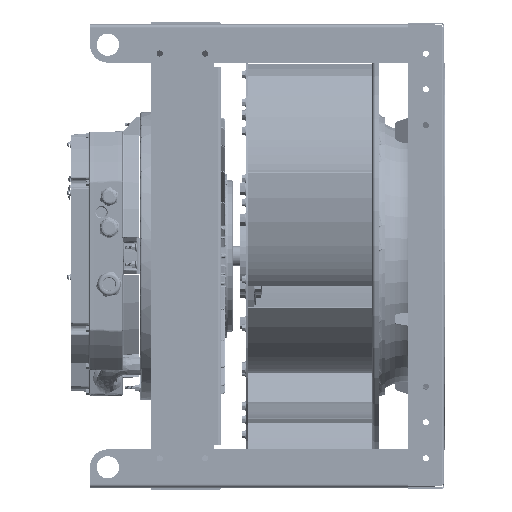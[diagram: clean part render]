
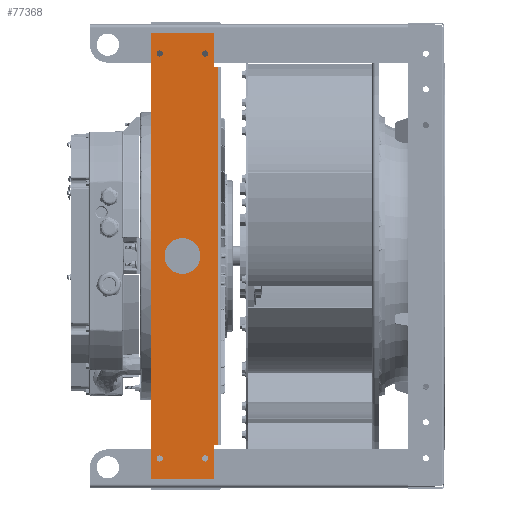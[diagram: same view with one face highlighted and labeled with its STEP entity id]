
A CAD part, front view. The second image highlights one B-rep face of the part: STEP entity #77368.
In plain terms, the highlighted planar face has unit normal (0, -1, 0) as drawn and (0, 0, 1) by its records, which use the part's own axes.
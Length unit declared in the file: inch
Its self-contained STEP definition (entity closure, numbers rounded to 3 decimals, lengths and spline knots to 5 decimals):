
#14715 = DIRECTION ( 'NONE',  ( 0., -1., 0. ) ) ;
#15464 = VERTEX_POINT ( 'NONE', #294374 ) ;
#17459 = CARTESIAN_POINT ( 'NONE',  ( 1., 0., 0.135 ) ) ;
#23321 = CARTESIAN_POINT ( 'NONE',  ( -11.305, 1.27, 0.135 ) ) ;
#29718 = ORIENTED_EDGE ( 'NONE', *, *, #146999, .T. ) ;
#33026 = AXIS2_PLACEMENT_3D ( 'NONE', #285003, #141369, #64025 ) ;
#33475 = VERTEX_POINT ( 'NONE', #99615 ) ;
#33995 = VERTEX_POINT ( 'NONE', #128236 ) ;
#34504 = ORIENTED_EDGE ( 'NONE', *, *, #293337, .T. ) ;
#35630 = LINE ( 'NONE', #229154, #107740 ) ;
#37407 = VECTOR ( 'NONE', #213149, 39.37008 ) ;
#38334 = FACE_BOUND ( 'NONE', #305927, .T. ) ;
#45357 = LINE ( 'NONE', #243656, #37407 ) ;
#50453 = EDGE_CURVE ( 'NONE', #307048, #307048, #70622, .T. ) ;
#57364 = DIRECTION ( 'NONE',  ( -1., 0., 0. ) ) ;
#58568 = VERTEX_POINT ( 'NONE', #225022 ) ;
#59765 = DIRECTION ( 'NONE',  ( 0., -1., 0. ) ) ;
#62501 = FACE_BOUND ( 'NONE', #111195, .T. ) ;
#63160 = CIRCLE ( 'NONE', #243431, 0.172 ) ;
#64025 = DIRECTION ( 'NONE',  ( -1., 0., 0. ) ) ;
#67248 = DIRECTION ( 'NONE',  ( -1., 0., 0. ) ) ;
#70440 = ORIENTED_EDGE ( 'NONE', *, *, #216353, .F. ) ;
#70622 = CIRCLE ( 'NONE', #292122, 0.172 ) ;
#70827 = ORIENTED_EDGE ( 'NONE', *, *, #218643, .T. ) ;
#74492 = ORIENTED_EDGE ( 'NONE', *, *, #50453, .F. ) ;
#77368 = ADVANCED_FACE ( 'NONE', ( #38334, #93004, #186689, #62501, #312442, #91423 ), #189847, .F. ) ;
#84786 = CARTESIAN_POINT ( 'NONE',  ( 12.465, -1.77, 0.135 ) ) ;
#87263 = LINE ( 'NONE', #259861, #253902 ) ;
#90945 = ORIENTED_EDGE ( 'NONE', *, *, #93301, .F. ) ;
#91423 = FACE_BOUND ( 'NONE', #102996, .T. ) ;
#92047 = DIRECTION ( 'NONE',  ( 1., 0., 0. ) ) ;
#93004 = FACE_OUTER_BOUND ( 'NONE', #127439, .T. ) ;
#93301 = EDGE_CURVE ( 'NONE', #233499, #233499, #63160, .T. ) ;
#95848 = CIRCLE ( 'NONE', #137099, 1. ) ;
#96454 = EDGE_CURVE ( 'NONE', #167289, #167289, #182430, .T. ) ;
#99615 = CARTESIAN_POINT ( 'NONE',  ( 10.555, 1.9775, 0.135 ) ) ;
#102996 = EDGE_LOOP ( 'NONE', ( #90945 ) ) ;
#106676 = DIRECTION ( 'NONE',  ( 0., 0., 1. ) ) ;
#107740 = VECTOR ( 'NONE', #59765, 39.37008 ) ;
#111195 = EDGE_LOOP ( 'NONE', ( #74492 ) ) ;
#113265 = EDGE_CURVE ( 'NONE', #157102, #58568, #176785, .T. ) ;
#114637 = EDGE_LOOP ( 'NONE', ( #242222 ) ) ;
#124826 = CARTESIAN_POINT ( 'NONE',  ( 0., 0., 0.135 ) ) ;
#127439 = EDGE_LOOP ( 'NONE', ( #29718, #34504, #253570, #317614, #70440, #129402, #70827, #140355 ) ) ;
#128026 = DIRECTION ( 'NONE',  ( 1., 0., 0. ) ) ;
#128236 = CARTESIAN_POINT ( 'NONE',  ( -10.555, 1.9775, 0.135 ) ) ;
#129402 = ORIENTED_EDGE ( 'NONE', *, *, #284034, .T. ) ;
#133432 = CARTESIAN_POINT ( 'NONE',  ( -10.555, 1.77, 0.135 ) ) ;
#137099 = AXIS2_PLACEMENT_3D ( 'NONE', #124826, #221616, #128026 ) ;
#137196 = CARTESIAN_POINT ( 'NONE',  ( -10.555, 1.9775, 0.135 ) ) ;
#137321 = LINE ( 'NONE', #263075, #309932 ) ;
#140355 = ORIENTED_EDGE ( 'NONE', *, *, #262330, .T. ) ;
#141369 = DIRECTION ( 'NONE',  ( 0., 0., 1. ) ) ;
#146999 = EDGE_CURVE ( 'NONE', #169669, #15464, #35630, .T. ) ;
#147109 = VERTEX_POINT ( 'NONE', #198731 ) ;
#152666 = LINE ( 'NONE', #84786, #158556 ) ;
#155742 = CARTESIAN_POINT ( 'NONE',  ( -12.465, 1.77, 0.135 ) ) ;
#157102 = VERTEX_POINT ( 'NONE', #279399 ) ;
#158556 = VECTOR ( 'NONE', #255778, 39.37008 ) ;
#159252 = DIRECTION ( 'NONE',  ( -1., 0., 0. ) ) ;
#159362 = VERTEX_POINT ( 'NONE', #133432 ) ;
#167289 = VERTEX_POINT ( 'NONE', #239859 ) ;
#169410 = DIRECTION ( 'NONE',  ( 1., 0., 0. ) ) ;
#169669 = VERTEX_POINT ( 'NONE', #289523 ) ;
#176785 = LINE ( 'NONE', #155742, #255974 ) ;
#178933 = VERTEX_POINT ( 'NONE', #206354 ) ;
#181285 = CARTESIAN_POINT ( 'NONE',  ( -11.133, 1.27, 0.135 ) ) ;
#182430 = CIRCLE ( 'NONE', #33026, 0.172 ) ;
#185057 = LINE ( 'NONE', #233411, #221457 ) ;
#186689 = FACE_BOUND ( 'NONE', #114637, .T. ) ;
#189847 = PLANE ( 'NONE',  #234173 ) ;
#190684 = AXIS2_PLACEMENT_3D ( 'NONE', #196808, #296748, #169410 ) ;
#196808 = CARTESIAN_POINT ( 'NONE',  ( 11.305, -1.27, 0.135 ) ) ;
#197018 = ORIENTED_EDGE ( 'NONE', *, *, #306525, .F. ) ;
#198731 = CARTESIAN_POINT ( 'NONE',  ( 11.477, -1.27, 0.135 ) ) ;
#202781 = EDGE_CURVE ( 'NONE', #286758, #286758, #95848, .T. ) ;
#205278 = EDGE_LOOP ( 'NONE', ( #197018 ) ) ;
#206171 = CARTESIAN_POINT ( 'NONE',  ( 11.133, 1.27, 0.135 ) ) ;
#206354 = CARTESIAN_POINT ( 'NONE',  ( 12.465, -1.77, 0.135 ) ) ;
#213149 = DIRECTION ( 'NONE',  ( -1., 0., 0. ) ) ;
#214577 = LINE ( 'NONE', #137196, #243321 ) ;
#216353 = EDGE_CURVE ( 'NONE', #33475, #58568, #137321, .T. ) ;
#218643 = EDGE_CURVE ( 'NONE', #33995, #159362, #214577, .T. ) ;
#221457 = VECTOR ( 'NONE', #159252, 39.37008 ) ;
#221616 = DIRECTION ( 'NONE',  ( 0., 0., 1. ) ) ;
#225022 = CARTESIAN_POINT ( 'NONE',  ( 10.555, 1.77, 0.135 ) ) ;
#229154 = CARTESIAN_POINT ( 'NONE',  ( -12.465, -1.77, 0.135 ) ) ;
#233411 = CARTESIAN_POINT ( 'NONE',  ( 10.555, 1.9775, 0.135 ) ) ;
#233499 = VERTEX_POINT ( 'NONE', #206171 ) ;
#234173 = AXIS2_PLACEMENT_3D ( 'NONE', #288221, #285055, #67248 ) ;
#238862 = DIRECTION ( 'NONE',  ( 0., -1., 0. ) ) ;
#239859 = CARTESIAN_POINT ( 'NONE',  ( -11.477, -1.27, 0.135 ) ) ;
#242222 = ORIENTED_EDGE ( 'NONE', *, *, #96454, .F. ) ;
#243321 = VECTOR ( 'NONE', #14715, 39.37008 ) ;
#243431 = AXIS2_PLACEMENT_3D ( 'NONE', #301918, #106676, #255054 ) ;
#243656 = CARTESIAN_POINT ( 'NONE',  ( -12.465, 1.77, 0.135 ) ) ;
#244206 = DIRECTION ( 'NONE',  ( 1., 0., 0. ) ) ;
#248053 = EDGE_CURVE ( 'NONE', #178933, #157102, #152666, .T. ) ;
#253570 = ORIENTED_EDGE ( 'NONE', *, *, #248053, .T. ) ;
#253902 = VECTOR ( 'NONE', #92047, 39.37008 ) ;
#255054 = DIRECTION ( 'NONE',  ( -1., 0., 0. ) ) ;
#255778 = DIRECTION ( 'NONE',  ( 0., 1., 0. ) ) ;
#255974 = VECTOR ( 'NONE', #57364, 39.37008 ) ;
#259861 = CARTESIAN_POINT ( 'NONE',  ( -12.465, -1.77, 0.135 ) ) ;
#262330 = EDGE_CURVE ( 'NONE', #159362, #169669, #45357, .T. ) ;
#262730 = CIRCLE ( 'NONE', #190684, 0.172 ) ;
#263075 = CARTESIAN_POINT ( 'NONE',  ( 10.555, 1.9775, 0.135 ) ) ;
#268850 = ORIENTED_EDGE ( 'NONE', *, *, #202781, .F. ) ;
#279399 = CARTESIAN_POINT ( 'NONE',  ( 12.465, 1.77, 0.135 ) ) ;
#284034 = EDGE_CURVE ( 'NONE', #33475, #33995, #185057, .T. ) ;
#285003 = CARTESIAN_POINT ( 'NONE',  ( -11.305, -1.27, 0.135 ) ) ;
#285055 = DIRECTION ( 'NONE',  ( 0., 0., -1. ) ) ;
#286758 = VERTEX_POINT ( 'NONE', #17459 ) ;
#288221 = CARTESIAN_POINT ( 'NONE',  ( 0., 0., 0.135 ) ) ;
#289523 = CARTESIAN_POINT ( 'NONE',  ( -12.465, 1.77, 0.135 ) ) ;
#292122 = AXIS2_PLACEMENT_3D ( 'NONE', #23321, #316859, #244206 ) ;
#293337 = EDGE_CURVE ( 'NONE', #15464, #178933, #87263, .T. ) ;
#294374 = CARTESIAN_POINT ( 'NONE',  ( -12.465, -1.77, 0.135 ) ) ;
#296748 = DIRECTION ( 'NONE',  ( 0., 0., 1. ) ) ;
#301918 = CARTESIAN_POINT ( 'NONE',  ( 11.305, 1.27, 0.135 ) ) ;
#305927 = EDGE_LOOP ( 'NONE', ( #268850 ) ) ;
#306525 = EDGE_CURVE ( 'NONE', #147109, #147109, #262730, .T. ) ;
#307048 = VERTEX_POINT ( 'NONE', #181285 ) ;
#309932 = VECTOR ( 'NONE', #238862, 39.37008 ) ;
#312442 = FACE_BOUND ( 'NONE', #205278, .T. ) ;
#316859 = DIRECTION ( 'NONE',  ( 0., 0., 1. ) ) ;
#317614 = ORIENTED_EDGE ( 'NONE', *, *, #113265, .T. ) ;
